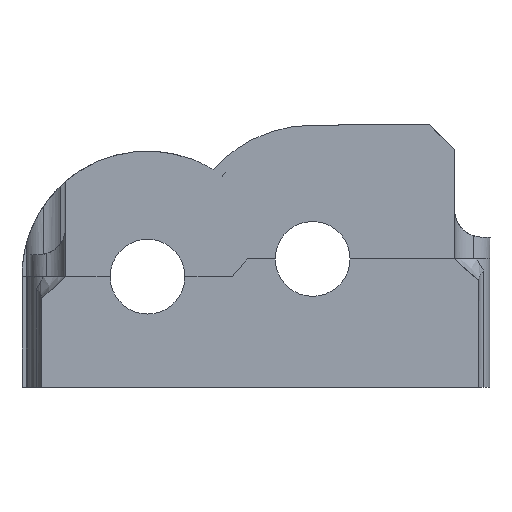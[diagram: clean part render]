
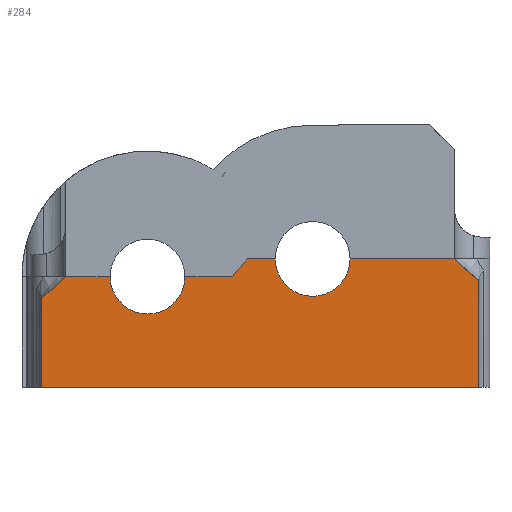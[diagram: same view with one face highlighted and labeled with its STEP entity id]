
A CAD part, front view. The second image highlights one B-rep face of the part: STEP entity #284.
In plain terms, the highlighted planar face has unit normal (0, -1, 0).
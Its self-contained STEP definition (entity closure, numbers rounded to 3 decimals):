
#259 = VERTEX_POINT('',#260);
#260 = CARTESIAN_POINT('',(-49.625,-53.,0.));
#266 = EDGE_CURVE('',#267,#259,#269,.T.);
#267 = VERTEX_POINT('',#268);
#268 = CARTESIAN_POINT('',(-49.625,-53.,16.25));
#269 = LINE('',#270,#271);
#270 = CARTESIAN_POINT('',(-49.625,-53.,8.125));
#271 = VECTOR('',#272,1.);
#272 = DIRECTION('',(0.,0.,-1.));
#284 = ADVANCED_FACE('',(#285),#376,.T.);
#285 = FACE_BOUND('',#286,.T.);
#286 = EDGE_LOOP('',(#287,#297,#306,#314,#322,#330,#339,#347,#353,#354,
    #362,#370));
#287 = ORIENTED_EDGE('',*,*,#288,.F.);
#288 = EDGE_CURVE('',#289,#291,#293,.T.);
#289 = VERTEX_POINT('',#290);
#290 = CARTESIAN_POINT('',(6.85,-53.,23.5));
#291 = VERTEX_POINT('',#292);
#292 = CARTESIAN_POINT('',(26.,-53.,23.5));
#293 = LINE('',#294,#295);
#294 = CARTESIAN_POINT('',(-9.625,-53.,23.5));
#295 = VECTOR('',#296,1.);
#296 = DIRECTION('',(1.,0.,0.));
#297 = ORIENTED_EDGE('',*,*,#298,.F.);
#298 = EDGE_CURVE('',#299,#289,#301,.T.);
#299 = VERTEX_POINT('',#300);
#300 = CARTESIAN_POINT('',(-6.85,-53.,23.5));
#301 = CIRCLE('',#302,6.85);
#302 = AXIS2_PLACEMENT_3D('',#303,#304,#305);
#303 = CARTESIAN_POINT('',(0.,-53.,23.5));
#304 = DIRECTION('',(0.,-1.,0.));
#305 = DIRECTION('',(0.,0.,-1.));
#306 = ORIENTED_EDGE('',*,*,#307,.F.);
#307 = EDGE_CURVE('',#308,#299,#310,.T.);
#308 = VERTEX_POINT('',#309);
#309 = CARTESIAN_POINT('',(-12.,-53.,23.5));
#310 = LINE('',#311,#312);
#311 = CARTESIAN_POINT('',(-9.625,-53.,23.5));
#312 = VECTOR('',#313,1.);
#313 = DIRECTION('',(1.,0.,0.));
#314 = ORIENTED_EDGE('',*,*,#315,.F.);
#315 = EDGE_CURVE('',#316,#308,#318,.T.);
#316 = VERTEX_POINT('',#317);
#317 = CARTESIAN_POINT('',(-14.727,-53.,20.25));
#318 = LINE('',#319,#320);
#319 = CARTESIAN_POINT('',(-11.019,-53.,24.669));
#320 = VECTOR('',#321,1.);
#321 = DIRECTION('',(0.643,0.,0.766));
#322 = ORIENTED_EDGE('',*,*,#323,.F.);
#323 = EDGE_CURVE('',#324,#316,#326,.T.);
#324 = VERTEX_POINT('',#325);
#325 = CARTESIAN_POINT('',(-23.4,-53.,20.25));
#326 = LINE('',#327,#328);
#327 = CARTESIAN_POINT('',(-9.625,-53.,20.25));
#328 = VECTOR('',#329,1.);
#329 = DIRECTION('',(1.,0.,0.));
#330 = ORIENTED_EDGE('',*,*,#331,.F.);
#331 = EDGE_CURVE('',#332,#324,#334,.T.);
#332 = VERTEX_POINT('',#333);
#333 = CARTESIAN_POINT('',(-37.1,-53.,20.25));
#334 = CIRCLE('',#335,6.85);
#335 = AXIS2_PLACEMENT_3D('',#336,#337,#338);
#336 = CARTESIAN_POINT('',(-30.25,-53.,20.25));
#337 = DIRECTION('',(0.,-1.,0.));
#338 = DIRECTION('',(0.,0.,-1.));
#339 = ORIENTED_EDGE('',*,*,#340,.F.);
#340 = EDGE_CURVE('',#341,#332,#343,.T.);
#341 = VERTEX_POINT('',#342);
#342 = CARTESIAN_POINT('',(-45.25,-53.,20.25));
#343 = LINE('',#344,#345);
#344 = CARTESIAN_POINT('',(-9.625,-53.,20.25));
#345 = VECTOR('',#346,1.);
#346 = DIRECTION('',(1.,0.,0.));
#347 = ORIENTED_EDGE('',*,*,#348,.T.);
#348 = EDGE_CURVE('',#341,#267,#349,.T.);
#349 = LINE('',#350,#351);
#350 = CARTESIAN_POINT('',(-47.438,-53.,18.25));
#351 = VECTOR('',#352,1.);
#352 = DIRECTION('',(-0.738,0.,-0.675));
#353 = ORIENTED_EDGE('',*,*,#266,.T.);
#354 = ORIENTED_EDGE('',*,*,#355,.F.);
#355 = EDGE_CURVE('',#356,#259,#358,.T.);
#356 = VERTEX_POINT('',#357);
#357 = CARTESIAN_POINT('',(30.375,-53.,0.));
#358 = LINE('',#359,#360);
#359 = CARTESIAN_POINT('',(0.,-53.,0.));
#360 = VECTOR('',#361,1.);
#361 = DIRECTION('',(-1.,0.,0.));
#362 = ORIENTED_EDGE('',*,*,#363,.F.);
#363 = EDGE_CURVE('',#364,#356,#366,.T.);
#364 = VERTEX_POINT('',#365);
#365 = CARTESIAN_POINT('',(30.375,-53.,19.5));
#366 = LINE('',#367,#368);
#367 = CARTESIAN_POINT('',(30.375,-53.,9.75));
#368 = VECTOR('',#369,1.);
#369 = DIRECTION('',(0.,0.,-1.));
#370 = ORIENTED_EDGE('',*,*,#371,.F.);
#371 = EDGE_CURVE('',#291,#364,#372,.T.);
#372 = LINE('',#373,#374);
#373 = CARTESIAN_POINT('',(28.188,-53.,21.5));
#374 = VECTOR('',#375,1.);
#375 = DIRECTION('',(0.738,0.,-0.675));
#376 = PLANE('',#377);
#377 = AXIS2_PLACEMENT_3D('',#378,#379,#380);
#378 = CARTESIAN_POINT('',(-9.625,-53.,23.5));
#379 = DIRECTION('',(0.,-1.,0.));
#380 = DIRECTION('',(1.,0.,0.));
